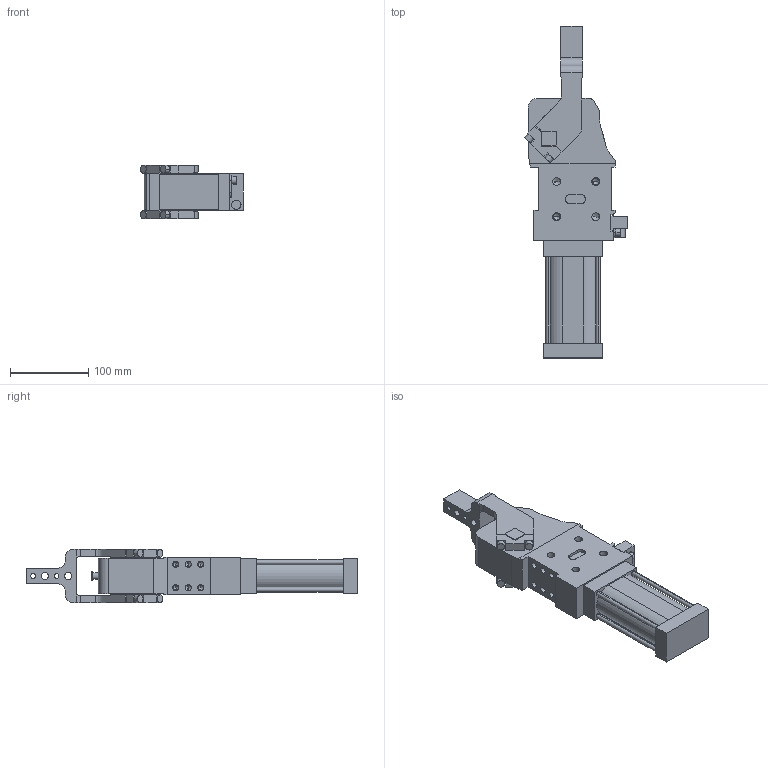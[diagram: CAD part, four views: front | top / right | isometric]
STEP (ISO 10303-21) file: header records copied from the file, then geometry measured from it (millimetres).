
FILE_DESCRIPTION (( 'STEP AP214' ), '1' );
FILE_NAME ('cpl50h1csi1g_75.STEP', '2023-01-26T08:47:10', ( '' ), ( '' ), 'SwSTEP 2.0', 'SolidWorks 2022', '' );
FILE_SCHEMA (( 'AUTOMOTIVE_DESIGN' ));
Length unit declared in the file: millimetre
Products named in the file (4): cpl50h1csi1g_75; blocchetto_VEP_0; leva_cx_offset_15_cpl50; meccanica_cpl_50
Assembly tree (3 placements, depth 2):
  cpl50h1csi1g_75
    meccanica_cpl_50
    blocchetto_VEP_0
    leva_cx_offset_15_cpl50
Bounding box: 131.47 x 424.5 x 69 mm (x, y, z)
Volume: 1377699.2 mm3; surface area: 162299.6 mm2
Topology: 3 solids, 3 shells, 399 faces, 1029 edges, 639 vertices
Faces by surface type: plane 193, cylinder 156, cone 50
Entity records: 13415 total; most frequent: DIRECTION 2119, CARTESIAN_POINT 2097, ORIENTED_EDGE 1966, EDGE_CURVE 983, AXIS2_PLACEMENT_3D 735, VECTOR 649, LINE 649, VERTEX_POINT 639
